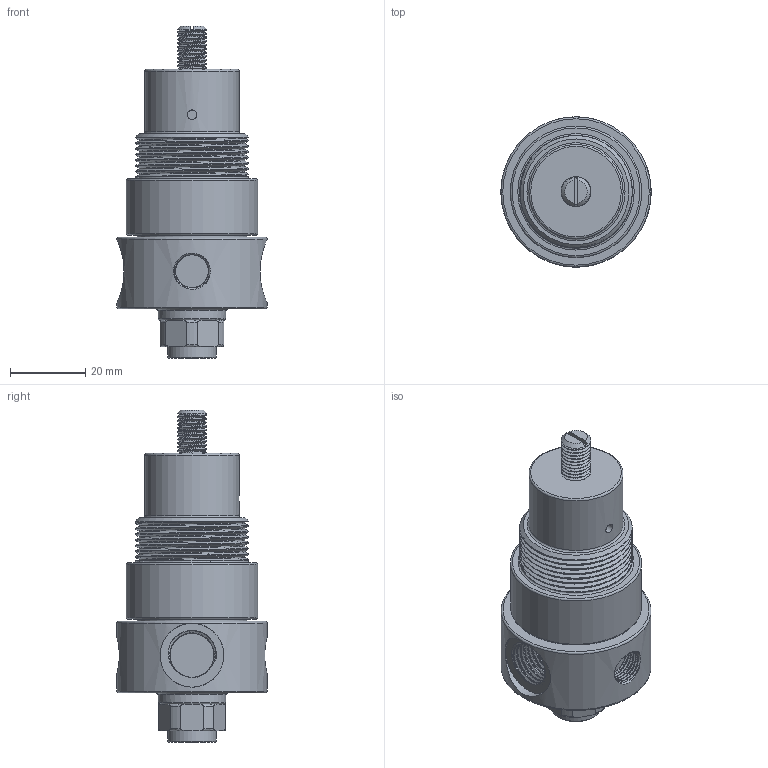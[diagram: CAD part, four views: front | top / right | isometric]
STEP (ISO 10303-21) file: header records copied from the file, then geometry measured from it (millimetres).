
FILE_DESCRIPTION(/* description */ (''),/* implementation_level */ '2;1');
FILE_NAME(/* name */ 'U:/AirCom-Produktdokumentation/Druckregler/R3000/Zeichnungen/CAD-Aircom/3D/B-R3000-A2xx.step',/* time_stamp */ '2016-10-12T11:41:07+02:00',/* author */ (''),/* organization */ (''),/* preprocessor_version */ 'ST-DEVELOPER v16.5',/* originating_system */ 'Autodesk Translation Framework v5.2.0.2031',/* authorisation */ '');
FILE_SCHEMA (('AUTOMOTIVE_DESIGN { 1 0 10303 214 3 1 1 }'));
Length unit declared in the file: centimetre
Products named in the file (1): B-R3000-A2
Bounding box: 39.8 x 39.8 x 88 mm (x, y, z)
Volume: 54041.8 mm3; surface area: 13192.2 mm2
Topology: 2 solids, 2 shells, 134 faces, 329 edges, 213 vertices
Faces by surface type: plane 44, bspline 38, cylinder 27, torus 22, cone 3
Full cylindrical faces by diameter (mm): 1.92 x1, 2.5 x1, 12.95 x1, 16.9 x2, 18 x1, 25 x1, 29 x1, 34.85 x1, 39.8 x1
Entity records: 20221 total; most frequent: CARTESIAN_POINT 17533, ORIENTED_EDGE 598, DIRECTION 417, EDGE_CURVE 299, VERTEX_POINT 205, AXIS2_PLACEMENT_3D 189, EDGE_LOOP 170, B_SPLINE_CURVE_WITH_KNOTS 164
